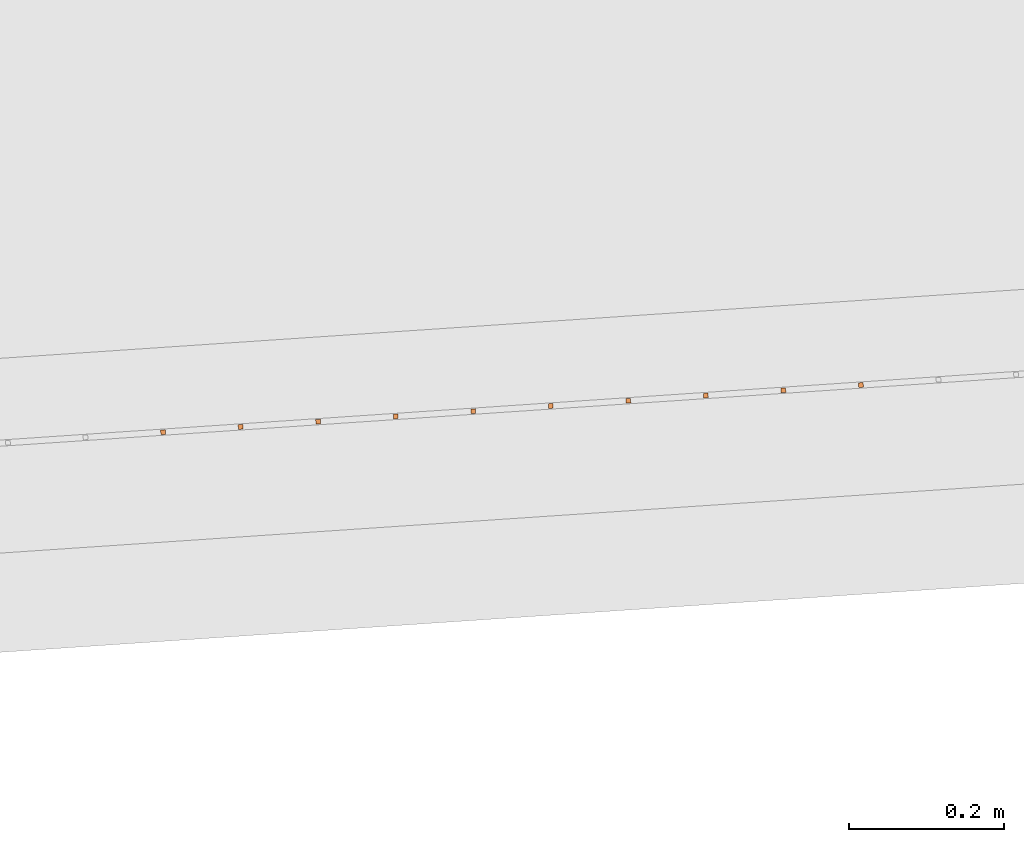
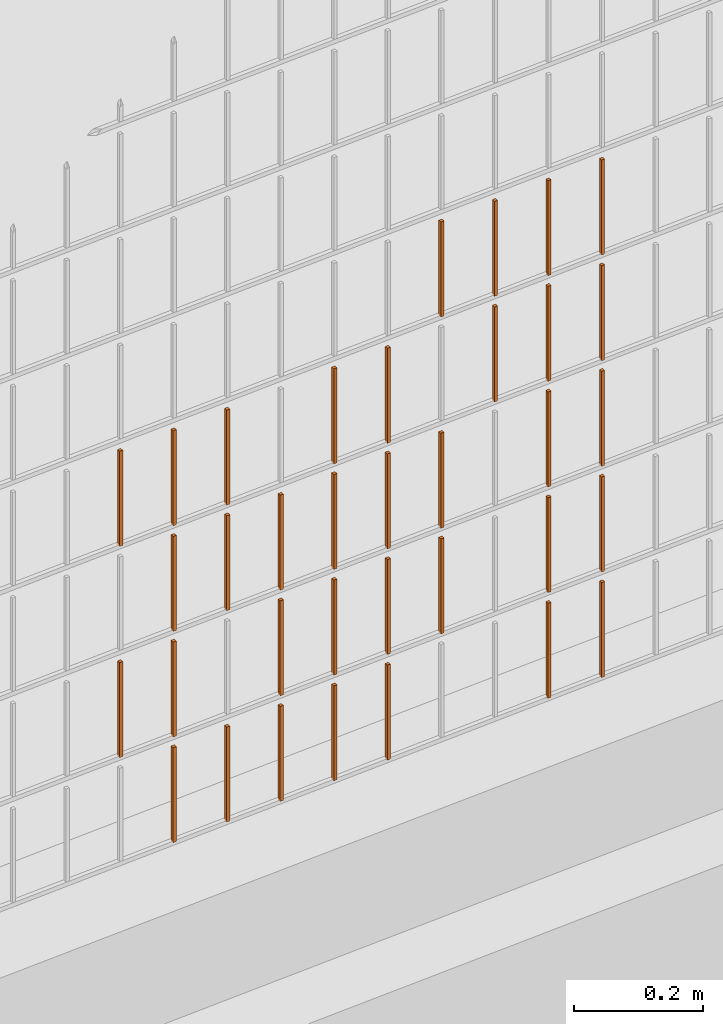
# One storey, part 271 of 1809: 35 proxies, 1 element without a shape of its own.
"""IFC2X3 building model written with IfcOpenShell, lengths in millimetres."""

from ifc_helpers import new_model, entity, si_unit, converted_unit, derived_unit, money_unit, direction, frame, origin_with_axes, place, context, subcontext, project, spatial, faceted_brep, source, transform, mapped, material, type_object, element, aggregate, save


model = new_model("IFC2X3")

# Units and contexts
model_context = context("Model", 3, precision=0.01, world=origin_with_axes(), true_north=direction((0.0, 1.0)))
body_context = subcontext(model_context, "Body", "Model", "MODEL_VIEW")
ifc_project = project(units=[si_unit("LENGTHUNIT", "METRE", prefix="MILLI"), si_unit("AREAUNIT", "SQUARE_METRE"), si_unit("VOLUMEUNIT", "CUBIC_METRE"), converted_unit("PLANEANGLEUNIT", "DEGREE", entity("IfcPlaneAngleMeasure", 0.0174532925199), si_unit("PLANEANGLEUNIT", "RADIAN"), dimensions=[0, 0, 0, 0, 0, 0, 0]), si_unit("SOLIDANGLEUNIT", "STERADIAN"), money_unit("EUR"), converted_unit("TIMEUNIT", "Year", entity("IfcTimeMeasure", 31556926.0), si_unit("TIMEUNIT", "SECOND"), dimensions=[0, 0, 1, 0, 0, 0, 0]), si_unit("MASSUNIT", "GRAM", prefix="KILO"), si_unit("THERMODYNAMICTEMPERATUREUNIT", "DEGREE_CELSIUS"), si_unit("LUMINOUSINTENSITYUNIT", "LUMEN"), si_unit("ENERGYUNIT", "JOULE", prefix="MEGA"), derived_unit("THERMALCONDUCTANCEUNIT", [(si_unit("POWERUNIT", "WATT"), 1), (si_unit("LENGTHUNIT", "METRE"), -1), (si_unit("THERMODYNAMICTEMPERATUREUNIT", "KELVIN"), -1)]), derived_unit("SPECIFICHEATCAPACITYUNIT", [(si_unit("ENERGYUNIT", "JOULE"), 1), (si_unit("MASSUNIT", "GRAM", prefix="KILO"), -1), (si_unit("THERMODYNAMICTEMPERATUREUNIT", "KELVIN"), -1)]), derived_unit("MASSDENSITYUNIT", [(si_unit("MASSUNIT", "GRAM", prefix="KILO"), 1), (si_unit("VOLUMEUNIT", "CUBIC_METRE"), -1)])], contexts=[model_context])

# Site, building, storey
site_placement = place(None, origin_with_axes())
site = spatial("IfcSite", under=ifc_project, at=site_placement, Name="Politse- ja Piirivalveameti ning Päästeameti ühishoone", CompositionType="ELEMENT")
building_placement = place(site_placement, origin_with_axes())
building = spatial("IfcBuilding", under=site, at=building_placement, Name="Politse- ja Piirivalveameti ning Päästeameti ühishoone", CompositionType="ELEMENT")
storey_placement = place(building_placement, origin_with_axes())
storey = spatial("IfcBuildingStorey", under=building, at=storey_placement, Name="Esimene korrus", CompositionType="ELEMENT", Elevation=0.0)

# Proxies
building_element_proxy_type_1 = type_object("IfcBuildingElementProxyType", Name="Railing Type", PredefinedType="NOTDEFINED")
proxy_1_placement = place(storey_placement, frame((89252.001212, -29183.4766571, 203.661247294), z_axis=(0.0, 0.0, 1.0), x_axis=(1.0, 0.0, 0.0)))
proxy_1 = element("IfcBuildingElementProxy", 1, at=proxy_1_placement, inside=storey, type_object=building_element_proxy_type_1, Name="PIIRDEAED")
ifc_material = material(Name="ET-03_Raud")
building_element_proxy_type_2 = type_object("IfcBuildingElementProxyType", Name="IfcBuildingElementProxy", PredefinedType="NOTDEFINED")
shared_shape_1 = source(origin_with_axes(), body_context, "Body", "Brep", [
    faceted_brep([(3.0, 3.0, -0.000752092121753), (-3.0, 3.0, -0.000752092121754), (-3.0, 3.0, 179.99926046), (3.0, 3.0, 179.99926046), (3.0, -3.0, 0.000752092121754), (-3.0, -3.0, 0.000752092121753), (-3.0, -3.0, 180.000764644), (3.0, -3.0, 180.000764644)], [[[0, 1, 2, 3]], [[0, 4, 5, 1]], [[1, 5, 6, 2]], [[3, 2, 6, 7]], [[4, 0, 3, 7]], [[5, 4, 7, 6]]]),
])
proxy_2_placement = place(proxy_1_placement, frame((-53205.4513566, -20891.6022106, 213.865524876), z_axis=(0.0, 0.0, 1.0), x_axis=(1.0, 0.0, 0.0)))
proxy_2 = element("IfcBuildingElementProxy", 2, at=proxy_2_placement, type_object=building_element_proxy_type_2, material=ifc_material, Name="BALUSTER - 001", context=body_context, shape_type="MappedRepresentation", body=[
    mapped(shared_shape_1, transform((0.0, 0.0, 0.0), x_axis=(-0.0673926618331, 0.997726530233, 0.0), y_axis=(-0.997726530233, -0.0673926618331, 0.0), z_axis=(0.0, 0.0, 1.0))),
])
shared_shape_2 = source(origin_with_axes(), body_context, "Body", "Brep", [
    faceted_brep([(3.0, 3.0, -0.000752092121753), (-3.0, 3.0, -0.000752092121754), (-3.0, 3.0, 179.99926046), (3.0, 3.0, 179.99926046), (3.0, -3.0, 0.000752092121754), (-3.0, -3.0, 0.000752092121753), (-3.0, -3.0, 180.000764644), (3.0, -3.0, 180.000764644)], [[[0, 1, 2, 3]], [[0, 4, 5, 1]], [[1, 5, 6, 2]], [[3, 2, 6, 7]], [[4, 0, 3, 7]], [[5, 4, 7, 6]]]),
])
proxy_3_placement = place(proxy_1_placement, frame((-53205.4513566, -20891.6022106, 413.865524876), z_axis=(0.0, 0.0, 1.0), x_axis=(1.0, 0.0, 0.0)))
proxy_3 = element("IfcBuildingElementProxy", 3, at=proxy_3_placement, type_object=building_element_proxy_type_2, material=ifc_material, Name="BALUSTER - 001", context=body_context, shape_type="MappedRepresentation", body=[
    mapped(shared_shape_2, transform((0.0, 0.0, 0.0), x_axis=(-0.0673926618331, 0.997726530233, 0.0), y_axis=(-0.997726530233, -0.0673926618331, 0.0), z_axis=(0.0, 0.0, 1.0))),
])
shared_shape_3 = source(origin_with_axes(), body_context, "Body", "Brep", [
    faceted_brep([(3.0, 3.0, -0.000752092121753), (-3.0, 3.0, -0.000752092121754), (-3.0, 3.0, 179.99926046), (3.0, 3.0, 179.99926046), (3.0, -3.0, 0.000752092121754), (-3.0, -3.0, 0.000752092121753), (-3.0, -3.0, 180.000764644), (3.0, -3.0, 180.000764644)], [[[0, 1, 2, 3]], [[0, 4, 5, 1]], [[1, 5, 6, 2]], [[3, 2, 6, 7]], [[4, 0, 3, 7]], [[5, 4, 7, 6]]]),
])
proxy_4_placement = place(proxy_1_placement, frame((-53205.4513566, -20891.6022106, 613.865524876), z_axis=(0.0, 0.0, 1.0), x_axis=(1.0, 0.0, 0.0)))
proxy_4 = element("IfcBuildingElementProxy", 4, at=proxy_4_placement, type_object=building_element_proxy_type_2, material=ifc_material, Name="BALUSTER - 001", context=body_context, shape_type="MappedRepresentation", body=[
    mapped(shared_shape_3, transform((0.0, 0.0, 0.0), x_axis=(-0.0673926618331, 0.997726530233, 0.0), y_axis=(-0.997726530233, -0.0673926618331, 0.0), z_axis=(0.0, 0.0, 1.0))),
])
shared_shape_4 = source(origin_with_axes(), body_context, "Body", "Brep", [
    faceted_brep([(3.0, 3.0, -0.000752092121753), (-3.0, 3.0, -0.000752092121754), (-3.0, 3.0, 179.99926046), (3.0, 3.0, 179.99926046), (3.0, -3.0, 0.000752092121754), (-3.0, -3.0, 0.000752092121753), (-3.0, -3.0, 180.000764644), (3.0, -3.0, 180.000764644)], [[[0, 1, 2, 3]], [[0, 4, 5, 1]], [[1, 5, 6, 2]], [[3, 2, 6, 7]], [[4, 0, 3, 7]], [[5, 4, 7, 6]]]),
])
proxy_5_placement = place(proxy_1_placement, frame((-53205.4513566, -20891.6022106, 13.8655248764), z_axis=(0.0, 0.0, 1.0), x_axis=(1.0, 0.0, 0.0)))
proxy_5 = element("IfcBuildingElementProxy", 5, at=proxy_5_placement, type_object=building_element_proxy_type_2, material=ifc_material, Name="BALUSTER - 001", context=body_context, shape_type="MappedRepresentation", body=[
    mapped(shared_shape_4, transform((0.0, 0.0, 0.0), x_axis=(-0.0673926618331, 0.997726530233, 0.0), y_axis=(-0.997726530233, -0.0673926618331, 0.0), z_axis=(0.0, 0.0, 1.0))),
])
shared_shape_5 = source(origin_with_axes(), body_context, "Body", "Brep", [
    faceted_brep([(3.0, 3.0, -0.000752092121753), (-3.0, 3.0, -0.000752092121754), (-3.0, 3.0, 179.99926046), (3.0, 3.0, 179.99926046), (3.0, -3.0, 0.000752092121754), (-3.0, -3.0, 0.000752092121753), (-3.0, -3.0, 180.000764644), (3.0, -3.0, 180.000764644)], [[[0, 1, 2, 3]], [[0, 4, 5, 1]], [[1, 5, 6, 2]], [[3, 2, 6, 7]], [[4, 0, 3, 7]], [[5, 4, 7, 6]]]),
])
proxy_6_placement = place(proxy_1_placement, frame((-53205.4513566, -20891.6022106, 813.865524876), z_axis=(0.0, 0.0, 1.0), x_axis=(1.0, 0.0, 0.0)))
proxy_6 = element("IfcBuildingElementProxy", 6, at=proxy_6_placement, type_object=building_element_proxy_type_2, material=ifc_material, Name="BALUSTER - 001", context=body_context, shape_type="MappedRepresentation", body=[
    mapped(shared_shape_5, transform((0.0, 0.0, 0.0), x_axis=(-0.0673926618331, 0.997726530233, 0.0), y_axis=(-0.997726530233, -0.0673926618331, 0.0), z_axis=(0.0, 0.0, 1.0))),
])
shared_shape_6 = source(origin_with_axes(), body_context, "Body", "Brep", [
    faceted_brep([(3.0, 3.0, -0.000752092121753), (-3.0, 3.0, -0.000752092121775), (-3.0, 3.0, 179.99926046), (3.0, 3.0, 179.99926046), (3.0, -3.0, 0.000752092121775), (-3.0, -3.0, 0.000752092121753), (-3.0, -3.0, 180.000764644), (3.0, -3.0, 180.000764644)], [[[0, 1, 2, 3]], [[0, 4, 5, 1]], [[1, 5, 6, 2]], [[3, 2, 6, 7]], [[4, 0, 3, 7]], [[5, 4, 7, 6]]]),
])
proxy_7_placement = place(proxy_1_placement, frame((-53604.5419687, -20918.5592753, 13.7652459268), z_axis=(0.0, 0.0, 1.0), x_axis=(1.0, 0.0, 0.0)))
proxy_7 = element("IfcBuildingElementProxy", 7, at=proxy_7_placement, type_object=building_element_proxy_type_2, material=ifc_material, Name="BALUSTER - 001", context=body_context, shape_type="MappedRepresentation", body=[
    mapped(shared_shape_6, transform((0.0, 0.0, 0.0), x_axis=(-0.0673926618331, 0.997726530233, 0.0), y_axis=(-0.997726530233, -0.0673926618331, 0.0), z_axis=(0.0, 0.0, 1.0))),
])
shared_shape_7 = source(origin_with_axes(), body_context, "Body", "Brep", [
    faceted_brep([(3.0, 3.0, -0.000752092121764), (-3.0, 3.0, -0.000752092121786), (-3.0, 3.0, 179.99926046), (3.0, 3.0, 179.99926046), (3.0, -3.0, 0.000752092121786), (-3.0, -3.0, 0.000752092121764), (-3.0, -3.0, 180.000764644), (3.0, -3.0, 180.000764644)], [[[0, 1, 2, 3]], [[0, 4, 5, 1]], [[1, 5, 6, 2]], [[3, 2, 6, 7]], [[4, 0, 3, 7]], [[5, 4, 7, 6]]]),
])
proxy_8_placement = place(proxy_1_placement, frame((-53305.2240096, -20898.3414768, 13.840455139), z_axis=(0.0, 0.0, 1.0), x_axis=(1.0, 0.0, 0.0)))
proxy_8 = element("IfcBuildingElementProxy", 8, at=proxy_8_placement, type_object=building_element_proxy_type_2, material=ifc_material, Name="BALUSTER - 001", context=body_context, shape_type="MappedRepresentation", body=[
    mapped(shared_shape_7, transform((0.0, 0.0, 0.0), x_axis=(-0.0673926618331, 0.997726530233, 0.0), y_axis=(-0.997726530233, -0.0673926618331, 0.0), z_axis=(0.0, 0.0, 1.0))),
])
proxy_9_placement = place(proxy_1_placement, frame((-53305.2240096, -20898.3414768, 213.840455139), z_axis=(0.0, 0.0, 1.0), x_axis=(1.0, 0.0, 0.0)))
proxy_9 = element("IfcBuildingElementProxy", 9, at=proxy_9_placement, type_object=building_element_proxy_type_2, material=ifc_material, Name="BALUSTER - 001", context=body_context, shape_type="MappedRepresentation", body=[
    mapped(shared_shape_7, transform((0.0, 0.0, 0.0), x_axis=(-0.0673926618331, 0.997726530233, 0.0), y_axis=(-0.997726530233, -0.0673926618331, 0.0), z_axis=(0.0, 0.0, 1.0))),
])
shared_shape_8 = source(origin_with_axes(), body_context, "Body", "Brep", [
    faceted_brep([(3.0, 3.0, -0.000752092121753), (-3.0, 3.0, -0.000752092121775), (-3.0, 3.0, 179.99926046), (3.0, 3.0, 179.99926046), (3.0, -3.0, 0.000752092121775), (-3.0, -3.0, 0.000752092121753), (-3.0, -3.0, 180.000764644), (3.0, -3.0, 180.000764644)], [[[0, 1, 2, 3]], [[0, 4, 5, 1]], [[1, 5, 6, 2]], [[3, 2, 6, 7]], [[4, 0, 3, 7]], [[5, 4, 7, 6]]]),
])
proxy_10_placement = place(proxy_1_placement, frame((-53604.5419687, -20918.5592753, 213.765245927), z_axis=(0.0, 0.0, 1.0), x_axis=(1.0, 0.0, 0.0)))
proxy_10 = element("IfcBuildingElementProxy", 10, at=proxy_10_placement, type_object=building_element_proxy_type_2, material=ifc_material, Name="BALUSTER - 001", context=body_context, shape_type="MappedRepresentation", body=[
    mapped(shared_shape_8, transform((0.0, 0.0, 0.0), x_axis=(-0.0673926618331, 0.997726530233, 0.0), y_axis=(-0.997726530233, -0.0673926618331, 0.0), z_axis=(0.0, 0.0, 1.0))),
])
shared_shape_9 = source(origin_with_axes(), body_context, "Body", "Brep", [
    faceted_brep([(3.0, 3.0, -0.000752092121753), (-3.0, 3.0, -0.000752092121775), (-3.0, 3.0, 179.99926046), (3.0, 3.0, 179.99926046), (3.0, -3.0, 0.000752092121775), (-3.0, -3.0, 0.000752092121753), (-3.0, -3.0, 180.000764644), (3.0, -3.0, 180.000764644)], [[[0, 1, 2, 3]], [[0, 4, 5, 1]], [[1, 5, 6, 2]], [[3, 2, 6, 7]], [[4, 0, 3, 7]], [[5, 4, 7, 6]]]),
])
proxy_11_placement = place(proxy_1_placement, frame((-53604.5419687, -20918.5592753, 413.765245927), z_axis=(0.0, 0.0, 1.0), x_axis=(1.0, 0.0, 0.0)))
proxy_11 = element("IfcBuildingElementProxy", 11, at=proxy_11_placement, type_object=building_element_proxy_type_2, material=ifc_material, Name="BALUSTER - 001", context=body_context, shape_type="MappedRepresentation", body=[
    mapped(shared_shape_9, transform((0.0, 0.0, 0.0), x_axis=(-0.0673926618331, 0.997726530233, 0.0), y_axis=(-0.997726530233, -0.0673926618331, 0.0), z_axis=(0.0, 0.0, 1.0))),
])
proxy_12_placement = place(proxy_1_placement, frame((-53704.3146217, -20925.2985415, 413.740176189), z_axis=(0.0, 0.0, 1.0), x_axis=(1.0, 0.0, 0.0)))
proxy_12 = element("IfcBuildingElementProxy", 12, at=proxy_12_placement, type_object=building_element_proxy_type_2, material=ifc_material, Name="BALUSTER - 001", context=body_context, shape_type="MappedRepresentation", body=[
    mapped(shared_shape_9, transform((0.0, 0.0, 0.0), x_axis=(-0.0673926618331, 0.997726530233, 0.0), y_axis=(-0.997726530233, -0.0673926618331, 0.0), z_axis=(0.0, 0.0, 1.0))),
])
proxy_13_placement = place(proxy_1_placement, frame((-53604.5419687, -20918.5592753, 613.765245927), z_axis=(0.0, 0.0, 1.0), x_axis=(1.0, 0.0, 0.0)))
proxy_13 = element("IfcBuildingElementProxy", 13, at=proxy_13_placement, type_object=building_element_proxy_type_2, material=ifc_material, Name="BALUSTER - 001", context=body_context, shape_type="MappedRepresentation", body=[
    mapped(shared_shape_9, transform((0.0, 0.0, 0.0), x_axis=(-0.0673926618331, 0.997726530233, 0.0), y_axis=(-0.997726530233, -0.0673926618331, 0.0), z_axis=(0.0, 0.0, 1.0))),
])
proxy_14_placement = place(proxy_1_placement, frame((-53704.3146217, -20925.2985415, 613.740176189), z_axis=(0.0, 0.0, 1.0), x_axis=(1.0, 0.0, 0.0)))
proxy_14 = element("IfcBuildingElementProxy", 14, at=proxy_14_placement, type_object=building_element_proxy_type_2, material=ifc_material, Name="BALUSTER - 001", context=body_context, shape_type="MappedRepresentation", body=[
    mapped(shared_shape_9, transform((0.0, 0.0, 0.0), x_axis=(-0.0673926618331, 0.997726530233, 0.0), y_axis=(-0.997726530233, -0.0673926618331, 0.0), z_axis=(0.0, 0.0, 1.0))),
])
shared_shape_10 = source(origin_with_axes(), body_context, "Body", "Brep", [
    faceted_brep([(3.0, 3.0, -0.000752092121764), (-3.0, 3.0, -0.000752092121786), (-3.0, 3.0, 179.99926046), (3.0, 3.0, 179.99926046), (3.0, -3.0, 0.000752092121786), (-3.0, -3.0, 0.000752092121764), (-3.0, -3.0, 180.000764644), (3.0, -3.0, 180.000764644)], [[[0, 1, 2, 3]], [[0, 4, 5, 1]], [[1, 5, 6, 2]], [[3, 2, 6, 7]], [[4, 0, 3, 7]], [[5, 4, 7, 6]]]),
])
proxy_15_placement = place(proxy_1_placement, frame((-53305.2240096, -20898.3414768, 413.840455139), z_axis=(0.0, 0.0, 1.0), x_axis=(1.0, 0.0, 0.0)))
proxy_15 = element("IfcBuildingElementProxy", 15, at=proxy_15_placement, type_object=building_element_proxy_type_2, material=ifc_material, Name="BALUSTER - 001", context=body_context, shape_type="MappedRepresentation", body=[
    mapped(shared_shape_10, transform((0.0, 0.0, 0.0), x_axis=(-0.0673926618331, 0.997726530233, 0.0), y_axis=(-0.997726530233, -0.0673926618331, 0.0), z_axis=(0.0, 0.0, 1.0))),
])
shared_shape_11 = source(origin_with_axes(), body_context, "Body", "Brep", [
    faceted_brep([(3.0, 3.0, -0.000752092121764), (-3.0, 3.0, -0.000752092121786), (-3.0, 3.0, 179.99926046), (3.0, 3.0, 179.99926046), (3.0, -3.0, 0.000752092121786), (-3.0, -3.0, 0.000752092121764), (-3.0, -3.0, 180.000764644), (3.0, -3.0, 180.000764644)], [[[0, 1, 2, 3]], [[0, 4, 5, 1]], [[1, 5, 6, 2]], [[3, 2, 6, 7]], [[4, 0, 3, 7]], [[5, 4, 7, 6]]]),
])
proxy_16_placement = place(proxy_1_placement, frame((-53504.7693157, -20911.8200092, 213.790315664), z_axis=(0.0, 0.0, 1.0), x_axis=(1.0, 0.0, 0.0)))
proxy_16 = element("IfcBuildingElementProxy", 16, at=proxy_16_placement, type_object=building_element_proxy_type_2, material=ifc_material, Name="BALUSTER - 001", context=body_context, shape_type="MappedRepresentation", body=[
    mapped(shared_shape_11, transform((0.0, 0.0, 0.0), x_axis=(-0.0673926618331, 0.997726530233, 0.0), y_axis=(-0.997726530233, -0.0673926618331, 0.0), z_axis=(0.0, 0.0, 1.0))),
])
proxy_17_placement = place(proxy_1_placement, frame((-53504.7693157, -20911.8200092, 413.790315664), z_axis=(0.0, 0.0, 1.0), x_axis=(1.0, 0.0, 0.0)))
proxy_17 = element("IfcBuildingElementProxy", 17, at=proxy_17_placement, type_object=building_element_proxy_type_2, material=ifc_material, Name="BALUSTER - 001", context=body_context, shape_type="MappedRepresentation", body=[
    mapped(shared_shape_11, transform((0.0, 0.0, 0.0), x_axis=(-0.0673926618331, 0.997726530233, 0.0), y_axis=(-0.997726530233, -0.0673926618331, 0.0), z_axis=(0.0, 0.0, 1.0))),
])
shared_shape_12 = source(origin_with_axes(), body_context, "Body", "Brep", [
    faceted_brep([(3.0, 3.0, -0.000752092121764), (-3.0, 3.0, -0.000752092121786), (-3.0, 3.0, 179.99926046), (3.0, 3.0, 179.99926046), (3.0, -3.0, 0.000752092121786), (-3.0, -3.0, 0.000752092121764), (-3.0, -3.0, 180.000764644), (3.0, -3.0, 180.000764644)], [[[0, 1, 2, 3]], [[0, 4, 5, 1]], [[1, 5, 6, 2]], [[3, 2, 6, 7]], [[4, 0, 3, 7]], [[5, 4, 7, 6]]]),
])
proxy_18_placement = place(proxy_1_placement, frame((-53305.2240096, -20898.3414768, 613.840455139), z_axis=(0.0, 0.0, 1.0), x_axis=(1.0, 0.0, 0.0)))
proxy_18 = element("IfcBuildingElementProxy", 18, at=proxy_18_placement, type_object=building_element_proxy_type_2, material=ifc_material, Name="BALUSTER - 001", context=body_context, shape_type="MappedRepresentation", body=[
    mapped(shared_shape_12, transform((0.0, 0.0, 0.0), x_axis=(-0.0673926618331, 0.997726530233, 0.0), y_axis=(-0.997726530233, -0.0673926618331, 0.0), z_axis=(0.0, 0.0, 1.0))),
])
proxy_19_placement = place(proxy_1_placement, frame((-53305.2240096, -20898.3414768, 813.840455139), z_axis=(0.0, 0.0, 1.0), x_axis=(1.0, 0.0, 0.0)))
proxy_19 = element("IfcBuildingElementProxy", 19, at=proxy_19_placement, type_object=building_element_proxy_type_2, material=ifc_material, Name="BALUSTER - 001", context=body_context, shape_type="MappedRepresentation", body=[
    mapped(shared_shape_12, transform((0.0, 0.0, 0.0), x_axis=(-0.0673926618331, 0.997726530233, 0.0), y_axis=(-0.997726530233, -0.0673926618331, 0.0), z_axis=(0.0, 0.0, 1.0))),
])
shared_shape_13 = source(origin_with_axes(), body_context, "Body", "Brep", [
    faceted_brep([(3.0, 3.0, -0.000752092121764), (-3.0, 3.0, -0.000752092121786), (-3.0, 3.0, 179.99926046), (3.0, 3.0, 179.99926046), (3.0, -3.0, 0.000752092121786), (-3.0, -3.0, 0.000752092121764), (-3.0, -3.0, 180.000764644), (3.0, -3.0, 180.000764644)], [[[0, 1, 2, 3]], [[0, 4, 5, 1]], [[1, 5, 6, 2]], [[3, 2, 6, 7]], [[4, 0, 3, 7]], [[5, 4, 7, 6]]]),
])
proxy_20_placement = place(proxy_1_placement, frame((-53504.7693157, -20911.8200092, 813.790315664), z_axis=(0.0, 0.0, 1.0), x_axis=(1.0, 0.0, 0.0)))
proxy_20 = element("IfcBuildingElementProxy", 20, at=proxy_20_placement, type_object=building_element_proxy_type_2, material=ifc_material, Name="BALUSTER - 001", context=body_context, shape_type="MappedRepresentation", body=[
    mapped(shared_shape_13, transform((0.0, 0.0, 0.0), x_axis=(-0.0673926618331, 0.997726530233, 0.0), y_axis=(-0.997726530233, -0.0673926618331, 0.0), z_axis=(0.0, 0.0, 1.0))),
])
shared_shape_14 = source(origin_with_axes(), body_context, "Body", "Brep", [
    faceted_brep([(3.0, 3.0, -0.000752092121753), (-3.0, 3.0, -0.000752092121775), (-3.0, 3.0, 179.99926046), (3.0, 3.0, 179.99926046), (3.0, -3.0, 0.000752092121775), (-3.0, -3.0, 0.000752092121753), (-3.0, -3.0, 180.000764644), (3.0, -3.0, 180.000764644)], [[[0, 1, 2, 3]], [[0, 4, 5, 1]], [[1, 5, 6, 2]], [[3, 2, 6, 7]], [[4, 0, 3, 7]], [[5, 4, 7, 6]]]),
])
proxy_21_placement = place(proxy_1_placement, frame((-53704.3146217, -20925.2985415, 13.7401761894), z_axis=(0.0, 0.0, 1.0), x_axis=(1.0, 0.0, 0.0)))
proxy_21 = element("IfcBuildingElementProxy", 21, at=proxy_21_placement, type_object=building_element_proxy_type_2, material=ifc_material, Name="BALUSTER - 001", context=body_context, shape_type="MappedRepresentation", body=[
    mapped(shared_shape_14, transform((0.0, 0.0, 0.0), x_axis=(-0.0673926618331, 0.997726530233, 0.0), y_axis=(-0.997726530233, -0.0673926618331, 0.0), z_axis=(0.0, 0.0, 1.0))),
])
shared_shape_15 = source(origin_with_axes(), body_context, "Body", "Brep", [
    faceted_brep([(3.0, 3.0, -0.000752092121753), (-3.0, 3.0, -0.000752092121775), (-3.0, 3.0, 179.99926046), (3.0, 3.0, 179.99926046), (3.0, -3.0, 0.000752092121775), (-3.0, -3.0, 0.000752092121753), (-3.0, -3.0, 180.000764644), (3.0, -3.0, 180.000764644)], [[[0, 1, 2, 3]], [[0, 4, 5, 1]], [[1, 5, 6, 2]], [[3, 2, 6, 7]], [[4, 0, 3, 7]], [[5, 4, 7, 6]]]),
])
proxy_22_placement = place(proxy_1_placement, frame((-53704.3146217, -20925.2985415, 213.740176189), z_axis=(0.0, 0.0, 1.0), x_axis=(1.0, 0.0, 0.0)))
proxy_22 = element("IfcBuildingElementProxy", 22, at=proxy_22_placement, type_object=building_element_proxy_type_2, material=ifc_material, Name="BALUSTER - 001", context=body_context, shape_type="MappedRepresentation", body=[
    mapped(shared_shape_15, transform((0.0, 0.0, 0.0), x_axis=(-0.0673926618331, 0.997726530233, 0.0), y_axis=(-0.997726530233, -0.0673926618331, 0.0), z_axis=(0.0, 0.0, 1.0))),
])
shared_shape_16 = source(origin_with_axes(), body_context, "Body", "Brep", [
    faceted_brep([(3.0, 3.0, -0.000752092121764), (-3.0, 3.0, -0.000752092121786), (-3.0, 3.0, 179.99926046), (3.0, 3.0, 179.99926046), (3.0, -3.0, 0.000752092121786), (-3.0, -3.0, 0.000752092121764), (-3.0, -3.0, 180.000764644), (3.0, -3.0, 180.000764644)], [[[0, 1, 2, 3]], [[0, 4, 5, 1]], [[1, 5, 6, 2]], [[3, 2, 6, 7]], [[4, 0, 3, 7]], [[5, 4, 7, 6]]]),
])
proxy_23_placement = place(proxy_1_placement, frame((-53404.9966627, -20905.080743, 813.815385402), z_axis=(0.0, 0.0, 1.0), x_axis=(1.0, 0.0, 0.0)))
proxy_23 = element("IfcBuildingElementProxy", 23, at=proxy_23_placement, type_object=building_element_proxy_type_2, material=ifc_material, Name="BALUSTER - 001", context=body_context, shape_type="MappedRepresentation", body=[
    mapped(shared_shape_16, transform((0.0, 0.0, 0.0), x_axis=(-0.0673926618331, 0.997726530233, 0.0), y_axis=(-0.997726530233, -0.0673926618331, 0.0), z_axis=(0.0, 0.0, 1.0))),
])
shared_shape_17 = source(origin_with_axes(), body_context, "Body", "Brep", [
    faceted_brep([(3.0, 3.0, -0.000752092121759), (-3.0, 3.0, -0.00075209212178), (-3.0, 3.0, 179.99926046), (3.0, 3.0, 179.99926046), (3.0, -3.0, 0.00075209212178), (-3.0, -3.0, 0.000752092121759), (-3.0, -3.0, 180.000764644), (3.0, -3.0, 180.000764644)], [[[0, 1, 2, 3]], [[0, 4, 5, 1]], [[1, 5, 6, 2]], [[3, 2, 6, 7]], [[4, 0, 3, 7]], [[5, 4, 7, 6]]]),
])
proxy_24_placement = place(proxy_1_placement, frame((-53804.0872747, -20932.0378077, 13.7151064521), z_axis=(0.0, 0.0, 1.0), x_axis=(1.0, 0.0, 0.0)))
proxy_24 = element("IfcBuildingElementProxy", 24, at=proxy_24_placement, type_object=building_element_proxy_type_2, material=ifc_material, Name="BALUSTER - 001", context=body_context, shape_type="MappedRepresentation", body=[
    mapped(shared_shape_17, transform((0.0, 0.0, 0.0), x_axis=(-0.0673926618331, 0.997726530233, 0.0), y_axis=(-0.997726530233, -0.0673926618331, 0.0), z_axis=(0.0, 0.0, 1.0))),
])
proxy_25_placement = place(proxy_1_placement, frame((-53804.0872747, -20932.0378077, 213.715106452), z_axis=(0.0, 0.0, 1.0), x_axis=(1.0, 0.0, 0.0)))
proxy_25 = element("IfcBuildingElementProxy", 25, at=proxy_25_placement, type_object=building_element_proxy_type_2, material=ifc_material, Name="BALUSTER - 001", context=body_context, shape_type="MappedRepresentation", body=[
    mapped(shared_shape_17, transform((0.0, 0.0, 0.0), x_axis=(-0.0673926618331, 0.997726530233, 0.0), y_axis=(-0.997726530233, -0.0673926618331, 0.0), z_axis=(0.0, 0.0, 1.0))),
])
shared_shape_18 = source(origin_with_axes(), body_context, "Body", "Brep", [
    faceted_brep([(3.0, 3.0, -0.000752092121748), (-3.0, 3.0, -0.00075209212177), (-3.0, 3.0, 179.99926046), (3.0, 3.0, 179.99926046), (3.0, -3.0, 0.00075209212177), (-3.0, -3.0, 0.000752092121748), (-3.0, -3.0, 180.000764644), (3.0, -3.0, 180.000764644)], [[[0, 1, 2, 3]], [[0, 4, 5, 1]], [[1, 5, 6, 2]], [[3, 2, 6, 7]], [[4, 0, 3, 7]], [[5, 4, 7, 6]]]),
])
proxy_26_placement = place(proxy_1_placement, frame((-53903.8599278, -20938.7770739, 13.6900367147), z_axis=(0.0, 0.0, 1.0), x_axis=(1.0, 0.0, 0.0)))
proxy_26 = element("IfcBuildingElementProxy", 26, at=proxy_26_placement, type_object=building_element_proxy_type_2, material=ifc_material, Name="BALUSTER - 001", context=body_context, shape_type="MappedRepresentation", body=[
    mapped(shared_shape_18, transform((0.0, 0.0, 0.0), x_axis=(-0.0673926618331, 0.997726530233, 0.0), y_axis=(-0.997726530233, -0.0673926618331, 0.0), z_axis=(0.0, 0.0, 1.0))),
])
shared_shape_19 = source(origin_with_axes(), body_context, "Body", "Brep", [
    faceted_brep([(3.0, 3.0, -0.000752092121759), (-3.0, 3.0, -0.00075209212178), (-3.0, 3.0, 179.99926046), (3.0, 3.0, 179.99926046), (3.0, -3.0, 0.00075209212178), (-3.0, -3.0, 0.000752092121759), (-3.0, -3.0, 180.000764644), (3.0, -3.0, 180.000764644)], [[[0, 1, 2, 3]], [[0, 4, 5, 1]], [[1, 5, 6, 2]], [[3, 2, 6, 7]], [[4, 0, 3, 7]], [[5, 4, 7, 6]]]),
])
proxy_27_placement = place(proxy_1_placement, frame((-54003.6325808, -20945.5163401, 13.6649669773), z_axis=(0.0, 0.0, 1.0), x_axis=(1.0, 0.0, 0.0)))
proxy_27 = element("IfcBuildingElementProxy", 27, at=proxy_27_placement, type_object=building_element_proxy_type_2, material=ifc_material, Name="BALUSTER - 001", context=body_context, shape_type="MappedRepresentation", body=[
    mapped(shared_shape_19, transform((0.0, 0.0, 0.0), x_axis=(-0.0673926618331, 0.997726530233, 0.0), y_axis=(-0.997726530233, -0.0673926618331, 0.0), z_axis=(0.0, 0.0, 1.0))),
])
shared_shape_20 = source(origin_with_axes(), body_context, "Body", "Brep", [
    faceted_brep([(3.0, 3.0, -0.000752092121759), (-3.0, 3.0, -0.00075209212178), (-3.0, 3.0, 179.99926046), (3.0, 3.0, 179.99926046), (3.0, -3.0, 0.00075209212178), (-3.0, -3.0, 0.000752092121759), (-3.0, -3.0, 180.000764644), (3.0, -3.0, 180.000764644)], [[[0, 1, 2, 3]], [[0, 4, 5, 1]], [[1, 5, 6, 2]], [[3, 2, 6, 7]], [[4, 0, 3, 7]], [[5, 4, 7, 6]]]),
])
proxy_28_placement = place(proxy_1_placement, frame((-54003.6325808, -20945.5163401, 213.664966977), z_axis=(0.0, 0.0, 1.0), x_axis=(1.0, 0.0, 0.0)))
proxy_28 = element("IfcBuildingElementProxy", 28, at=proxy_28_placement, type_object=building_element_proxy_type_2, material=ifc_material, Name="BALUSTER - 001", context=body_context, shape_type="MappedRepresentation", body=[
    mapped(shared_shape_20, transform((0.0, 0.0, 0.0), x_axis=(-0.0673926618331, 0.997726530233, 0.0), y_axis=(-0.997726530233, -0.0673926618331, 0.0), z_axis=(0.0, 0.0, 1.0))),
])
proxy_29_placement = place(proxy_1_placement, frame((-54003.6325808, -20945.5163401, 413.664966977), z_axis=(0.0, 0.0, 1.0), x_axis=(1.0, 0.0, 0.0)))
proxy_29 = element("IfcBuildingElementProxy", 29, at=proxy_29_placement, type_object=building_element_proxy_type_2, material=ifc_material, Name="BALUSTER - 001", context=body_context, shape_type="MappedRepresentation", body=[
    mapped(shared_shape_20, transform((0.0, 0.0, 0.0), x_axis=(-0.0673926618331, 0.997726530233, 0.0), y_axis=(-0.997726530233, -0.0673926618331, 0.0), z_axis=(0.0, 0.0, 1.0))),
])
shared_shape_21 = source(origin_with_axes(), body_context, "Body", "Brep", [
    faceted_brep([(3.0, 3.0, -0.000752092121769), (-3.0, 3.0, -0.00075209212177), (-3.0, 3.0, 179.99926046), (3.0, 3.0, 179.99926046), (3.0, -3.0, 0.00075209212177), (-3.0, -3.0, 0.000752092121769), (-3.0, -3.0, 180.000764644), (3.0, -3.0, 180.000764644)], [[[0, 1, 2, 3]], [[0, 4, 5, 1]], [[1, 5, 6, 2]], [[3, 2, 6, 7]], [[4, 0, 3, 7]], [[5, 4, 7, 6]]]),
])
proxy_30_placement = place(proxy_1_placement, frame((-54103.4052338, -20952.2556063, 213.63989724), z_axis=(0.0, 0.0, 1.0), x_axis=(1.0, 0.0, 0.0)))
proxy_30 = element("IfcBuildingElementProxy", 30, at=proxy_30_placement, type_object=building_element_proxy_type_2, material=ifc_material, Name="BALUSTER - 001", context=body_context, shape_type="MappedRepresentation", body=[
    mapped(shared_shape_21, transform((0.0, 0.0, 0.0), x_axis=(-0.0673926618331, 0.997726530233, 0.0), y_axis=(-0.997726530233, -0.0673926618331, 0.0), z_axis=(0.0, 0.0, 1.0))),
])
proxy_31_placement = place(proxy_1_placement, frame((-54103.4052338, -20952.2556063, 613.63989724), z_axis=(0.0, 0.0, 1.0), x_axis=(1.0, 0.0, 0.0)))
proxy_31 = element("IfcBuildingElementProxy", 31, at=proxy_31_placement, type_object=building_element_proxy_type_2, material=ifc_material, Name="BALUSTER - 001", context=body_context, shape_type="MappedRepresentation", body=[
    mapped(shared_shape_21, transform((0.0, 0.0, 0.0), x_axis=(-0.0673926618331, 0.997726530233, 0.0), y_axis=(-0.997726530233, -0.0673926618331, 0.0), z_axis=(0.0, 0.0, 1.0))),
])
shared_shape_22 = source(origin_with_axes(), body_context, "Body", "Brep", [
    faceted_brep([(3.0, 3.0, -0.000752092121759), (-3.0, 3.0, -0.00075209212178), (-3.0, 3.0, 179.99926046), (3.0, 3.0, 179.99926046), (3.0, -3.0, 0.00075209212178), (-3.0, -3.0, 0.000752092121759), (-3.0, -3.0, 180.000764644), (3.0, -3.0, 180.000764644)], [[[0, 1, 2, 3]], [[0, 4, 5, 1]], [[1, 5, 6, 2]], [[3, 2, 6, 7]], [[4, 0, 3, 7]], [[5, 4, 7, 6]]]),
])
proxy_32_placement = place(proxy_1_placement, frame((-53804.0872747, -20932.0378077, 413.715106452), z_axis=(0.0, 0.0, 1.0), x_axis=(1.0, 0.0, 0.0)))
proxy_32 = element("IfcBuildingElementProxy", 32, at=proxy_32_placement, type_object=building_element_proxy_type_2, material=ifc_material, Name="BALUSTER - 001", context=body_context, shape_type="MappedRepresentation", body=[
    mapped(shared_shape_22, transform((0.0, 0.0, 0.0), x_axis=(-0.0673926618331, 0.997726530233, 0.0), y_axis=(-0.997726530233, -0.0673926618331, 0.0), z_axis=(0.0, 0.0, 1.0))),
])
shared_shape_23 = source(origin_with_axes(), body_context, "Body", "Brep", [
    faceted_brep([(3.0, 3.0, -0.000752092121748), (-3.0, 3.0, -0.00075209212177), (-3.0, 3.0, 179.99926046), (3.0, 3.0, 179.99926046), (3.0, -3.0, 0.00075209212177), (-3.0, -3.0, 0.000752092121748), (-3.0, -3.0, 180.000764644), (3.0, -3.0, 180.000764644)], [[[0, 1, 2, 3]], [[0, 4, 5, 1]], [[1, 5, 6, 2]], [[3, 2, 6, 7]], [[4, 0, 3, 7]], [[5, 4, 7, 6]]]),
])
proxy_33_placement = place(proxy_1_placement, frame((-53903.8599278, -20938.7770739, 413.690036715), z_axis=(0.0, 0.0, 1.0), x_axis=(1.0, 0.0, 0.0)))
proxy_33 = element("IfcBuildingElementProxy", 33, at=proxy_33_placement, type_object=building_element_proxy_type_2, material=ifc_material, Name="BALUSTER - 001", context=body_context, shape_type="MappedRepresentation", body=[
    mapped(shared_shape_23, transform((0.0, 0.0, 0.0), x_axis=(-0.0673926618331, 0.997726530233, 0.0), y_axis=(-0.997726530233, -0.0673926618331, 0.0), z_axis=(0.0, 0.0, 1.0))),
])
shared_shape_24 = source(origin_with_axes(), body_context, "Body", "Brep", [
    faceted_brep([(3.0, 3.0, -0.000752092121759), (-3.0, 3.0, -0.00075209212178), (-3.0, 3.0, 179.99926046), (3.0, 3.0, 179.99926046), (3.0, -3.0, 0.00075209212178), (-3.0, -3.0, 0.000752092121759), (-3.0, -3.0, 180.000764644), (3.0, -3.0, 180.000764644)], [[[0, 1, 2, 3]], [[0, 4, 5, 1]], [[1, 5, 6, 2]], [[3, 2, 6, 7]], [[4, 0, 3, 7]], [[5, 4, 7, 6]]]),
])
proxy_34_placement = place(proxy_1_placement, frame((-54003.6325808, -20945.5163401, 613.664966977), z_axis=(0.0, 0.0, 1.0), x_axis=(1.0, 0.0, 0.0)))
proxy_34 = element("IfcBuildingElementProxy", 34, at=proxy_34_placement, type_object=building_element_proxy_type_2, material=ifc_material, Name="BALUSTER - 001", context=body_context, shape_type="MappedRepresentation", body=[
    mapped(shared_shape_24, transform((0.0, 0.0, 0.0), x_axis=(-0.0673926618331, 0.997726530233, 0.0), y_axis=(-0.997726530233, -0.0673926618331, 0.0), z_axis=(0.0, 0.0, 1.0))),
])
shared_shape_25 = source(origin_with_axes(), body_context, "Body", "Brep", [
    faceted_brep([(3.0, 3.0, -0.000752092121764), (-3.0, 3.0, -0.000752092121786), (-3.0, 3.0, 179.99926046), (3.0, 3.0, 179.99926046), (3.0, -3.0, 0.000752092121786), (-3.0, -3.0, 0.000752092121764), (-3.0, -3.0, 180.000764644), (3.0, -3.0, 180.000764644)], [[[0, 1, 2, 3]], [[0, 4, 5, 1]], [[1, 5, 6, 2]], [[3, 2, 6, 7]], [[4, 0, 3, 7]], [[5, 4, 7, 6]]]),
])
proxy_35_placement = place(proxy_1_placement, frame((-53404.9966627, -20905.080743, 613.815385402), z_axis=(0.0, 0.0, 1.0), x_axis=(1.0, 0.0, 0.0)))
proxy_35 = element("IfcBuildingElementProxy", 35, at=proxy_35_placement, type_object=building_element_proxy_type_2, material=ifc_material, Name="BALUSTER - 001", context=body_context, shape_type="MappedRepresentation", body=[
    mapped(shared_shape_25, transform((0.0, 0.0, 0.0), x_axis=(-0.0673926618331, 0.997726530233, 0.0), y_axis=(-0.997726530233, -0.0673926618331, 0.0), z_axis=(0.0, 0.0, 1.0))),
])
shared_shape_26 = source(origin_with_axes(), body_context, "Body", "Brep", [
    faceted_brep([(3.0, 3.0, -0.000752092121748), (-3.0, 3.0, -0.00075209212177), (-3.0, 3.0, 179.99926046), (3.0, 3.0, 179.99926046), (3.0, -3.0, 0.00075209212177), (-3.0, -3.0, 0.000752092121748), (-3.0, -3.0, 180.000764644), (3.0, -3.0, 180.000764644)], [[[0, 1, 2, 3]], [[0, 4, 5, 1]], [[1, 5, 6, 2]], [[3, 2, 6, 7]], [[4, 0, 3, 7]], [[5, 4, 7, 6]]]),
])
proxy_36_placement = place(proxy_1_placement, frame((-53903.8599278, -20938.7770739, 613.690036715), z_axis=(0.0, 0.0, 1.0), x_axis=(1.0, 0.0, 0.0)))
proxy_36 = element("IfcBuildingElementProxy", 36, at=proxy_36_placement, type_object=building_element_proxy_type_2, material=ifc_material, Name="BALUSTER - 001", context=body_context, shape_type="MappedRepresentation", body=[
    mapped(shared_shape_26, transform((0.0, 0.0, 0.0), x_axis=(-0.0673926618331, 0.997726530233, 0.0), y_axis=(-0.997726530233, -0.0673926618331, 0.0), z_axis=(0.0, 0.0, 1.0))),
])
aggregate(proxy_1, [proxy_5, proxy_8, proxy_7, proxy_21, proxy_24, proxy_26, proxy_27, proxy_2, proxy_9, proxy_16, proxy_10, proxy_22, proxy_25, proxy_28, proxy_30, proxy_3, proxy_15, proxy_17, proxy_11, proxy_12, proxy_32, proxy_33, proxy_29, proxy_4, proxy_18, proxy_35, proxy_13, proxy_14, proxy_36, proxy_34, proxy_31, proxy_6, proxy_19, proxy_23, proxy_20])

save(model, "model.ifc")
